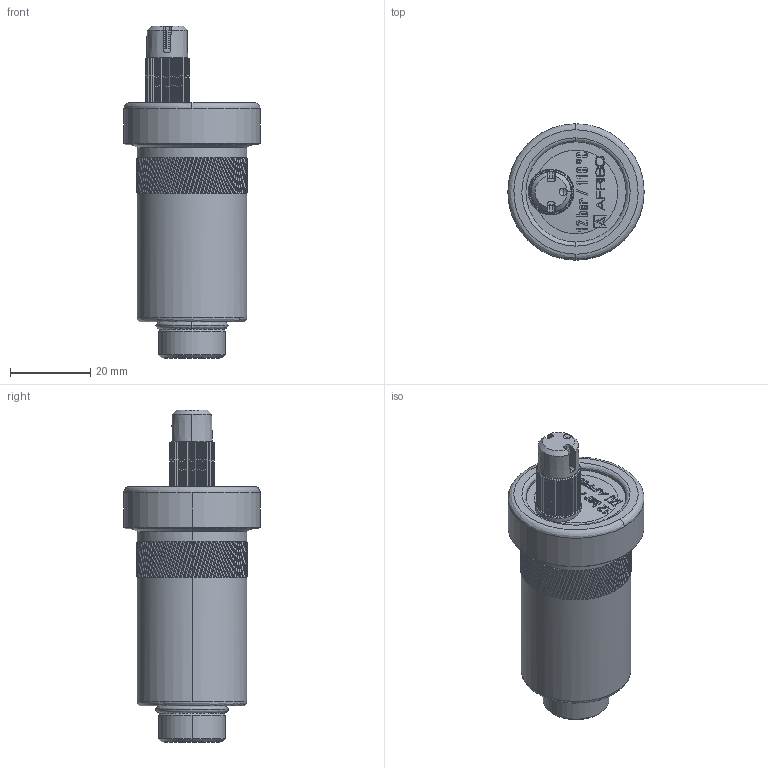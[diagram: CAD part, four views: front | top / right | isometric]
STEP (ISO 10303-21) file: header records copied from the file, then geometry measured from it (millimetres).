
FILE_DESCRIPTION (( 'STEP AP214' ), '1' );
FILE_NAME ('7771010.STEP', '2022-04-20T09:03:30', ( '' ), ( '' ), 'SwSTEP 2.0', 'SolidWorks 2021', '' );
FILE_SCHEMA (( 'AUTOMOTIVE_DESIGN' ));
Length unit declared in the file: millimetre
Products named in the file (8): 05 00 280034_Schraubkappe SE Aquastop; 801 014 1780_O-Ring  _X_F814x1.78 mm EPDM; 760 000 0169_Quellscheibe _X_F87x_X_F82,5x0,5; 7771010; 05 00 210013_Geh_X_E4use SE; Schnellentl_X_FCfter MS G3_8 Aquastop_05 00 21 13; 05 00 280011_Deckel Schnellentl_X_FCfter; _X_DCberwurfmutter M32x1,5_05 00 210014
Assembly tree (15 placements, depth 3):
  7771010
    Schnellentl_X_FCfter MS G3_8 Aquastop_05 00 21 13
      _X_DCberwurfmutter M32x1,5_05 00 210014
      801 014 1780_O-Ring  _X_F814x1.78 mm EPDM
      760 000 0169_Quellscheibe _X_F87x_X_F82,5x0,5  x9
      05 00 210013_Geh_X_E4use SE
      05 00 280011_Deckel Schnellentl_X_FCfter
      05 00 280034_Schraubkappe SE Aquastop
Bounding box: 34 x 34 x 82.8 mm (x, y, z)
Volume: 9715.4 mm3; surface area: 18423.4 mm2
Topology: 12 solids, 14 shells, 1680 faces, 4427 edges, 2911 vertices
Faces by surface type: cylinder 595, plane 578, bspline 250, cone 245, torus 12
Entity records: 69324 total; most frequent: CARTESIAN_POINT 20147, ORIENTED_EDGE 7589, DIRECTION 5597, EDGE_CURVE 3800, VERTEX_POINT 2495, AXIS2_PLACEMENT_3D 2070, EDGE_LOOP 1614, B_SPLINE_CURVE_WITH_KNOTS 1476
